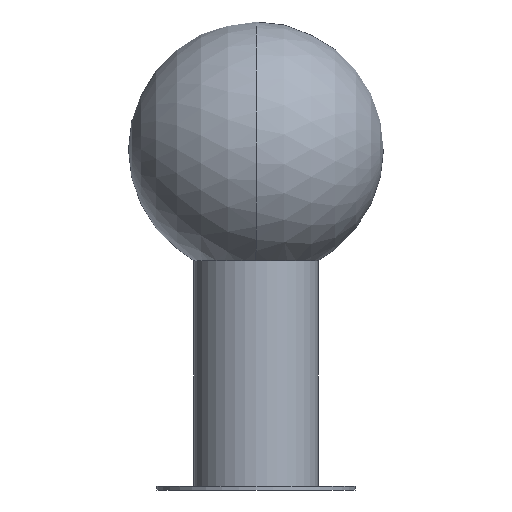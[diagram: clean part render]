
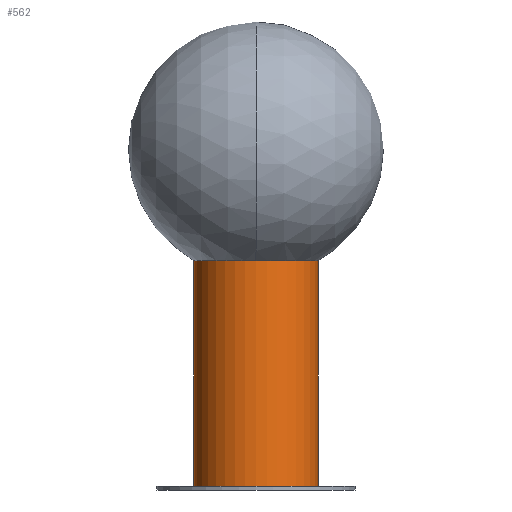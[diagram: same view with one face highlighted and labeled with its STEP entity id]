
A CAD part, front view. The second image highlights one B-rep face of the part: STEP entity #562.
In plain terms, the highlighted cylindrical face has radius 44 mm (diameter 88 mm), a partial arc.
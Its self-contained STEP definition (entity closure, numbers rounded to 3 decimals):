
#77=FACE_OUTER_BOUND('',#122,.T.);
#122=EDGE_LOOP('',(#449,#450,#451,#452));
#153=LINE('',#963,#179);
#154=LINE('',#964,#180);
#179=VECTOR('',#779,304.8);
#180=VECTOR('',#780,304.8);
#213=CIRCLE('',#615,44.);
#222=CIRCLE('',#632,44.);
#261=VERTEX_POINT('',#931);
#262=VERTEX_POINT('',#932);
#269=VERTEX_POINT('',#960);
#270=VERTEX_POINT('',#961);
#317=EDGE_CURVE('',#261,#262,#213,.T.);
#332=EDGE_CURVE('',#262,#269,#153,.T.);
#333=EDGE_CURVE('',#270,#261,#154,.T.);
#334=EDGE_CURVE('',#270,#269,#222,.T.);
#449=ORIENTED_EDGE('',*,*,#334,.F.);
#450=ORIENTED_EDGE('',*,*,#333,.T.);
#451=ORIENTED_EDGE('',*,*,#317,.T.);
#452=ORIENTED_EDGE('',*,*,#332,.T.);
#538=CYLINDRICAL_SURFACE('',#631,44.);
#562=ADVANCED_FACE('',(#77),#538,.T.);
#615=AXIS2_PLACEMENT_3D('',#933,#741,#742);
#631=AXIS2_PLACEMENT_3D('',#965,#781,#782);
#632=AXIS2_PLACEMENT_3D('',#966,#783,#784);
#741=DIRECTION('center_axis',(0.,0.,1.));
#742=DIRECTION('ref_axis',(1.,0.,0.));
#779=DIRECTION('',(0.,0.,1.));
#780=DIRECTION('',(0.,0.,-1.));
#781=DIRECTION('center_axis',(0.,0.,1.));
#782=DIRECTION('ref_axis',(1.,0.,0.));
#783=DIRECTION('center_axis',(0.,0.,1.));
#784=DIRECTION('ref_axis',(1.,0.,0.));
#931=CARTESIAN_POINT('',(-44.,0.,2.5));
#932=CARTESIAN_POINT('',(44.,0.,2.5));
#933=CARTESIAN_POINT('Origin',(0.,0.,2.5));
#960=CARTESIAN_POINT('',(44.,0.,162.));
#961=CARTESIAN_POINT('',(-44.,0.,162.));
#963=CARTESIAN_POINT('',(44.,0.,2.5));
#964=CARTESIAN_POINT('',(-44.,0.,162.));
#965=CARTESIAN_POINT('Origin',(0.,0.,0.));
#966=CARTESIAN_POINT('Origin',(0.,0.,162.));
